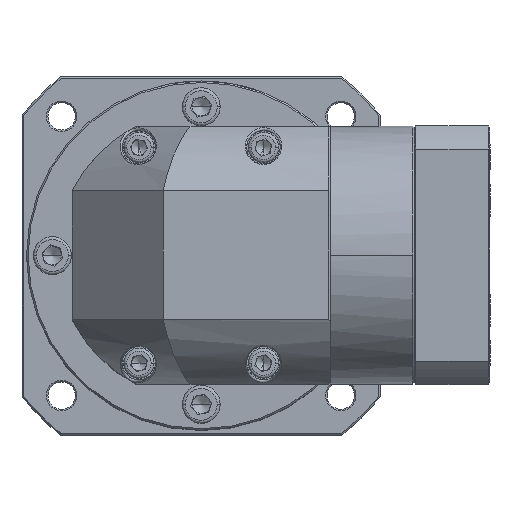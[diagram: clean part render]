
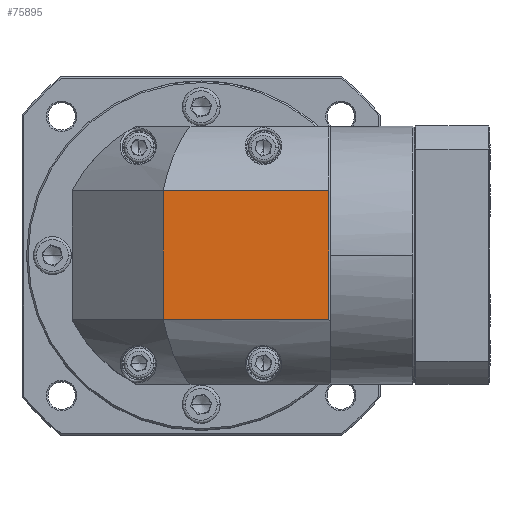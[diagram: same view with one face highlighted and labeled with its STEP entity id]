
A CAD part, top view. The second image highlights one B-rep face of the part: STEP entity #75895.
In plain terms, the highlighted planar face has unit normal (0, 0, 1).
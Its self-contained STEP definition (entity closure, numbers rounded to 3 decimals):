
#3531 = LINE ( 'NONE', #67134, #50967 ) ;
#6245 = DIRECTION ( 'NONE',  ( 0., 1., 0. ) ) ;
#9840 = CARTESIAN_POINT ( 'NONE',  ( 30.781, 114.932, 59.446 ) ) ;
#15939 = LINE ( 'NONE', #134620, #78610 ) ;
#16169 = EDGE_LOOP ( 'NONE', ( #25322, #133193, #130614, #112254 ) ) ;
#25322 = ORIENTED_EDGE ( 'NONE', *, *, #57921, .F. ) ;
#27995 = CARTESIAN_POINT ( 'NONE',  ( 18.281, 93.719, 59.446 ) ) ;
#30812 = EDGE_CURVE ( 'NONE', #83962, #48271, #3531, .T. ) ;
#36811 = EDGE_CURVE ( 'NONE', #83962, #67719, #15939, .T. ) ;
#42858 = CARTESIAN_POINT ( 'NONE',  ( 72.781, 136.146, 59.446 ) ) ;
#44616 = LINE ( 'NONE', #118831, #115838 ) ;
#44968 = CARTESIAN_POINT ( 'NONE',  ( 72.781, 93.719, 59.446 ) ) ;
#48271 = VERTEX_POINT ( 'NONE', #27995 ) ;
#50967 = VECTOR ( 'NONE', #87953, 1000. ) ;
#53460 = DIRECTION ( 'NONE',  ( 1., 0., 0. ) ) ;
#57921 = EDGE_CURVE ( 'NONE', #127529, #67719, #44616, .T. ) ;
#63284 = DIRECTION ( 'NONE',  ( 1., 0., 0. ) ) ;
#67134 = CARTESIAN_POINT ( 'NONE',  ( -27.219, 93.719, 59.446 ) ) ;
#67719 = VERTEX_POINT ( 'NONE', #42858 ) ;
#71182 = CARTESIAN_POINT ( 'NONE',  ( 18.281, 114.932, 59.446 ) ) ;
#74725 = PLANE ( 'NONE',  #112138 ) ;
#75895 = ADVANCED_FACE ( 'NONE', ( #86476 ), #74725, .T. ) ;
#78610 = VECTOR ( 'NONE', #135576, 1000. ) ;
#81247 = EDGE_CURVE ( 'NONE', #48271, #127529, #127239, .T. ) ;
#83962 = VERTEX_POINT ( 'NONE', #44968 ) ;
#86476 = FACE_OUTER_BOUND ( 'NONE', #16169, .T. ) ;
#87953 = DIRECTION ( 'NONE',  ( -1., 0., 0. ) ) ;
#95250 = CARTESIAN_POINT ( 'NONE',  ( 18.281, 136.146, 59.446 ) ) ;
#107936 = DIRECTION ( 'NONE',  ( 0., 0., 1. ) ) ;
#112138 = AXIS2_PLACEMENT_3D ( 'NONE', #9840, #107936, #63284 ) ;
#112254 = ORIENTED_EDGE ( 'NONE', *, *, #36811, .T. ) ;
#115838 = VECTOR ( 'NONE', #53460, 1000. ) ;
#118831 = CARTESIAN_POINT ( 'NONE',  ( -27.219, 136.146, 59.446 ) ) ;
#120435 = VECTOR ( 'NONE', #6245, 1000. ) ;
#127239 = LINE ( 'NONE', #71182, #120435 ) ;
#127529 = VERTEX_POINT ( 'NONE', #95250 ) ;
#130614 = ORIENTED_EDGE ( 'NONE', *, *, #30812, .F. ) ;
#133193 = ORIENTED_EDGE ( 'NONE', *, *, #81247, .F. ) ;
#134620 = CARTESIAN_POINT ( 'NONE',  ( 72.781, 114.932, 59.446 ) ) ;
#135576 = DIRECTION ( 'NONE',  ( 0., 1., 0. ) ) ;
